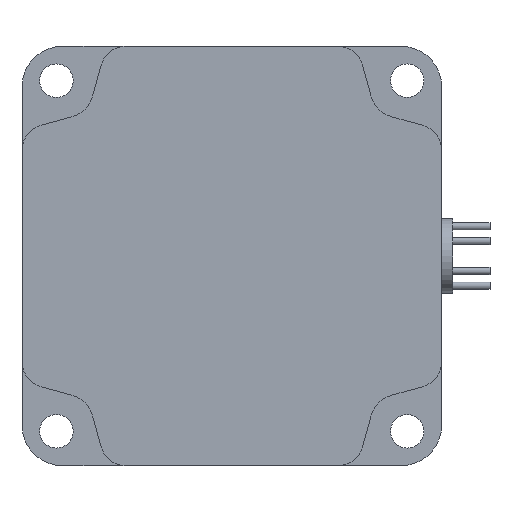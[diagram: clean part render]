
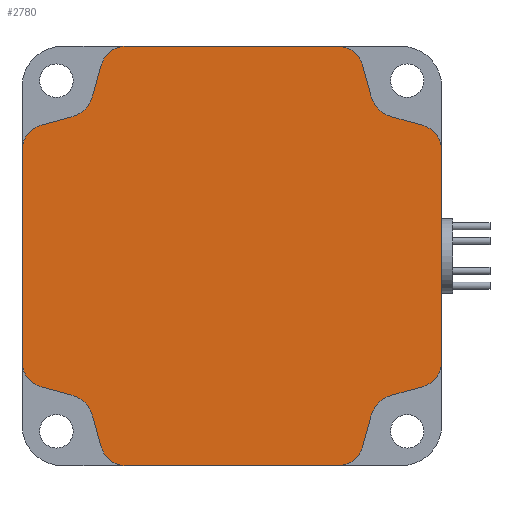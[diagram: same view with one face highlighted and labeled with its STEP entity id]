
A CAD part, left-side view. The second image highlights one B-rep face of the part: STEP entity #2780.
In plain terms, the highlighted planar face has unit normal (-1, 0, 0).
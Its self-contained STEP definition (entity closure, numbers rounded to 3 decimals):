
#80=CIRCLE('',#3000,3.5);
#81=CIRCLE('',#3001,4.);
#82=CIRCLE('',#3002,3.5);
#83=CIRCLE('',#3003,3.5);
#84=CIRCLE('',#3004,4.);
#85=CIRCLE('',#3005,3.5);
#86=CIRCLE('',#3006,3.5);
#87=CIRCLE('',#3007,4.);
#88=CIRCLE('',#3008,3.5);
#89=CIRCLE('',#3009,3.5);
#90=CIRCLE('',#3010,4.);
#91=CIRCLE('',#3011,3.5);
#535=ORIENTED_EDGE('',*,*,#1239,.F.);
#536=ORIENTED_EDGE('',*,*,#1240,.F.);
#537=ORIENTED_EDGE('',*,*,#1241,.T.);
#538=ORIENTED_EDGE('',*,*,#1242,.F.);
#539=ORIENTED_EDGE('',*,*,#1243,.F.);
#540=ORIENTED_EDGE('',*,*,#1244,.F.);
#541=ORIENTED_EDGE('',*,*,#1245,.F.);
#542=ORIENTED_EDGE('',*,*,#1246,.F.);
#543=ORIENTED_EDGE('',*,*,#1247,.T.);
#544=ORIENTED_EDGE('',*,*,#1248,.F.);
#545=ORIENTED_EDGE('',*,*,#1249,.F.);
#546=ORIENTED_EDGE('',*,*,#1250,.F.);
#547=ORIENTED_EDGE('',*,*,#1251,.F.);
#548=ORIENTED_EDGE('',*,*,#1252,.F.);
#549=ORIENTED_EDGE('',*,*,#1253,.T.);
#550=ORIENTED_EDGE('',*,*,#1254,.F.);
#551=ORIENTED_EDGE('',*,*,#1255,.F.);
#552=ORIENTED_EDGE('',*,*,#1256,.F.);
#553=ORIENTED_EDGE('',*,*,#1257,.F.);
#554=ORIENTED_EDGE('',*,*,#1258,.F.);
#555=ORIENTED_EDGE('',*,*,#1259,.T.);
#556=ORIENTED_EDGE('',*,*,#1260,.F.);
#557=ORIENTED_EDGE('',*,*,#1261,.F.);
#558=ORIENTED_EDGE('',*,*,#1262,.F.);
#1239=EDGE_CURVE('',#1603,#1604,#80,.T.);
#1240=EDGE_CURVE('',#1605,#1603,#1872,.T.);
#1241=EDGE_CURVE('',#1605,#1606,#81,.T.);
#1242=EDGE_CURVE('',#1607,#1606,#1873,.T.);
#1243=EDGE_CURVE('',#1608,#1607,#82,.T.);
#1244=EDGE_CURVE('',#1609,#1608,#1874,.T.);
#1245=EDGE_CURVE('',#1610,#1609,#83,.T.);
#1246=EDGE_CURVE('',#1611,#1610,#1875,.T.);
#1247=EDGE_CURVE('',#1611,#1612,#84,.T.);
#1248=EDGE_CURVE('',#1613,#1612,#1876,.T.);
#1249=EDGE_CURVE('',#1614,#1613,#85,.T.);
#1250=EDGE_CURVE('',#1615,#1614,#1877,.T.);
#1251=EDGE_CURVE('',#1616,#1615,#86,.T.);
#1252=EDGE_CURVE('',#1617,#1616,#1878,.T.);
#1253=EDGE_CURVE('',#1617,#1618,#87,.T.);
#1254=EDGE_CURVE('',#1619,#1618,#1879,.T.);
#1255=EDGE_CURVE('',#1620,#1619,#88,.T.);
#1256=EDGE_CURVE('',#1621,#1620,#1880,.T.);
#1257=EDGE_CURVE('',#1622,#1621,#89,.T.);
#1258=EDGE_CURVE('',#1623,#1622,#1881,.T.);
#1259=EDGE_CURVE('',#1623,#1624,#90,.T.);
#1260=EDGE_CURVE('',#1625,#1624,#1882,.T.);
#1261=EDGE_CURVE('',#1626,#1625,#91,.T.);
#1262=EDGE_CURVE('',#1604,#1626,#1883,.T.);
#1603=VERTEX_POINT('',#4410);
#1604=VERTEX_POINT('',#4411);
#1605=VERTEX_POINT('',#4413);
#1606=VERTEX_POINT('',#4415);
#1607=VERTEX_POINT('',#4417);
#1608=VERTEX_POINT('',#4419);
#1609=VERTEX_POINT('',#4421);
#1610=VERTEX_POINT('',#4423);
#1611=VERTEX_POINT('',#4425);
#1612=VERTEX_POINT('',#4427);
#1613=VERTEX_POINT('',#4429);
#1614=VERTEX_POINT('',#4431);
#1615=VERTEX_POINT('',#4433);
#1616=VERTEX_POINT('',#4435);
#1617=VERTEX_POINT('',#4437);
#1618=VERTEX_POINT('',#4439);
#1619=VERTEX_POINT('',#4441);
#1620=VERTEX_POINT('',#4443);
#1621=VERTEX_POINT('',#4445);
#1622=VERTEX_POINT('',#4447);
#1623=VERTEX_POINT('',#4449);
#1624=VERTEX_POINT('',#4451);
#1625=VERTEX_POINT('',#4453);
#1626=VERTEX_POINT('',#4455);
#1872=LINE('',#4412,#2133);
#1873=LINE('',#4416,#2134);
#1874=LINE('',#4420,#2135);
#1875=LINE('',#4424,#2136);
#1876=LINE('',#4428,#2137);
#1877=LINE('',#4432,#2138);
#1878=LINE('',#4436,#2139);
#1879=LINE('',#4440,#2140);
#1880=LINE('',#4444,#2141);
#1881=LINE('',#4448,#2142);
#1882=LINE('',#4452,#2143);
#1883=LINE('',#4456,#2144);
#2133=VECTOR('',#3529,1000.);
#2134=VECTOR('',#3532,1000.);
#2135=VECTOR('',#3535,1000.);
#2136=VECTOR('',#3538,1000.);
#2137=VECTOR('',#3541,1000.);
#2138=VECTOR('',#3544,1000.);
#2139=VECTOR('',#3547,1000.);
#2140=VECTOR('',#3550,1000.);
#2141=VECTOR('',#3553,1000.);
#2142=VECTOR('',#3556,1000.);
#2143=VECTOR('',#3559,1000.);
#2144=VECTOR('',#3562,1000.);
#2337=EDGE_LOOP('',(#535,#536,#537,#538,#539,#540,#541,#542,#543,#544,#545,
#546,#547,#548,#549,#550,#551,#552,#553,#554,#555,#556,#557,#558));
#2520=FACE_BOUND('',#2337,.T.);
#2677=PLANE('',#2999);
#2780=ADVANCED_FACE('',(#2520),#2677,.F.);
#2999=AXIS2_PLACEMENT_3D('',#4408,#3525,#3526);
#3000=AXIS2_PLACEMENT_3D('',#4409,#3527,#3528);
#3001=AXIS2_PLACEMENT_3D('',#4414,#3530,#3531);
#3002=AXIS2_PLACEMENT_3D('',#4418,#3533,#3534);
#3003=AXIS2_PLACEMENT_3D('',#4422,#3536,#3537);
#3004=AXIS2_PLACEMENT_3D('',#4426,#3539,#3540);
#3005=AXIS2_PLACEMENT_3D('',#4430,#3542,#3543);
#3006=AXIS2_PLACEMENT_3D('',#4434,#3545,#3546);
#3007=AXIS2_PLACEMENT_3D('',#4438,#3548,#3549);
#3008=AXIS2_PLACEMENT_3D('',#4442,#3551,#3552);
#3009=AXIS2_PLACEMENT_3D('',#4446,#3554,#3555);
#3010=AXIS2_PLACEMENT_3D('',#4450,#3557,#3558);
#3011=AXIS2_PLACEMENT_3D('',#4454,#3560,#3561);
#3525=DIRECTION('',(1.,0.,0.));
#3526=DIRECTION('',(0.,0.,-1.));
#3527=DIRECTION('',(1.,0.,0.));
#3528=DIRECTION('',(0.,0.,-1.));
#3529=DIRECTION('',(0.,-0.264,0.965));
#3530=DIRECTION('',(1.,0.,0.));
#3531=DIRECTION('',(0.,0.,-1.));
#3532=DIRECTION('',(0.,-0.965,0.264));
#3533=DIRECTION('',(1.,0.,0.));
#3534=DIRECTION('',(0.,0.,-1.));
#3535=DIRECTION('',(0.,0.,1.));
#3536=DIRECTION('',(1.,0.,0.));
#3537=DIRECTION('',(0.,0.,-1.));
#3538=DIRECTION('',(0.,0.965,0.264));
#3539=DIRECTION('',(1.,0.,0.));
#3540=DIRECTION('',(0.,0.,-1.));
#3541=DIRECTION('',(0.,0.264,0.965));
#3542=DIRECTION('',(1.,0.,0.));
#3543=DIRECTION('',(0.,0.,-1.));
#3544=DIRECTION('',(0.,1.,0.));
#3545=DIRECTION('',(1.,0.,0.));
#3546=DIRECTION('',(0.,0.,-1.));
#3547=DIRECTION('',(0.,0.264,-0.965));
#3548=DIRECTION('',(1.,0.,0.));
#3549=DIRECTION('',(0.,0.,-1.));
#3550=DIRECTION('',(0.,0.965,-0.264));
#3551=DIRECTION('',(1.,0.,0.));
#3552=DIRECTION('',(0.,0.,-1.));
#3553=DIRECTION('',(0.,0.,-1.));
#3554=DIRECTION('',(1.,0.,0.));
#3555=DIRECTION('',(0.,0.,-1.));
#3556=DIRECTION('',(0.,-0.965,-0.264));
#3557=DIRECTION('',(1.,0.,0.));
#3558=DIRECTION('',(0.,0.,-1.));
#3559=DIRECTION('',(0.,-0.264,-0.965));
#3560=DIRECTION('',(1.,0.,0.));
#3561=DIRECTION('',(0.,0.,-1.));
#3562=DIRECTION('',(0.,-1.,0.));
#4408=CARTESIAN_POINT('',(-39.,-22.7,22.7));
#4409=CARTESIAN_POINT('',(-39.,14.2,24.7));
#4410=CARTESIAN_POINT('',(-39.,17.576,25.623));
#4411=CARTESIAN_POINT('',(-39.,14.2,28.2));
#4412=CARTESIAN_POINT('',(-39.,15.52,33.146));
#4413=CARTESIAN_POINT('',(-39.,18.702,21.505));
#4414=CARTESIAN_POINT('',(-39.,22.56,22.56));
#4415=CARTESIAN_POINT('',(-39.,21.505,18.702));
#4416=CARTESIAN_POINT('',(-39.,-20.644,30.222));
#4417=CARTESIAN_POINT('',(-39.,25.623,17.576));
#4418=CARTESIAN_POINT('',(-39.,24.7,14.2));
#4419=CARTESIAN_POINT('',(-39.,28.2,14.2));
#4420=CARTESIAN_POINT('',(-39.,28.2,-22.7));
#4421=CARTESIAN_POINT('',(-39.,28.2,-14.2));
#4422=CARTESIAN_POINT('',(-39.,24.7,-14.2));
#4423=CARTESIAN_POINT('',(-39.,25.623,-17.576));
#4424=CARTESIAN_POINT('',(-39.,-9.098,-27.066));
#4425=CARTESIAN_POINT('',(-39.,21.505,-18.702));
#4426=CARTESIAN_POINT('',(-39.,22.56,-22.56));
#4427=CARTESIAN_POINT('',(-39.,18.702,-21.505));
#4428=CARTESIAN_POINT('',(-39.,27.066,9.098));
#4429=CARTESIAN_POINT('',(-39.,17.576,-25.623));
#4430=CARTESIAN_POINT('',(-39.,14.2,-24.7));
#4431=CARTESIAN_POINT('',(-39.,14.2,-28.2));
#4432=CARTESIAN_POINT('',(-39.,-22.7,-28.2));
#4433=CARTESIAN_POINT('',(-39.,-14.2,-28.2));
#4434=CARTESIAN_POINT('',(-39.,-14.2,-24.7));
#4435=CARTESIAN_POINT('',(-39.,-17.576,-25.623));
#4436=CARTESIAN_POINT('',(-39.,-30.222,20.644));
#4437=CARTESIAN_POINT('',(-39.,-18.702,-21.505));
#4438=CARTESIAN_POINT('',(-39.,-22.56,-22.56));
#4439=CARTESIAN_POINT('',(-39.,-21.505,-18.702));
#4440=CARTESIAN_POINT('',(-39.,-33.146,-15.52));
#4441=CARTESIAN_POINT('',(-39.,-25.623,-17.576));
#4442=CARTESIAN_POINT('',(-39.,-24.7,-14.2));
#4443=CARTESIAN_POINT('',(-39.,-28.2,-14.2));
#4444=CARTESIAN_POINT('',(-39.,-28.2,22.7));
#4445=CARTESIAN_POINT('',(-39.,-28.2,14.2));
#4446=CARTESIAN_POINT('',(-39.,-24.7,14.2));
#4447=CARTESIAN_POINT('',(-39.,-25.623,17.576));
#4448=CARTESIAN_POINT('',(-39.,-21.6,18.676));
#4449=CARTESIAN_POINT('',(-39.,-21.505,18.702));
#4450=CARTESIAN_POINT('',(-39.,-22.56,22.56));
#4451=CARTESIAN_POINT('',(-39.,-18.702,21.505));
#4452=CARTESIAN_POINT('',(-39.,-18.676,21.6));
#4453=CARTESIAN_POINT('',(-39.,-17.576,25.623));
#4454=CARTESIAN_POINT('',(-39.,-14.2,24.7));
#4455=CARTESIAN_POINT('',(-39.,-14.2,28.2));
#4456=CARTESIAN_POINT('',(-39.,22.7,28.2));
